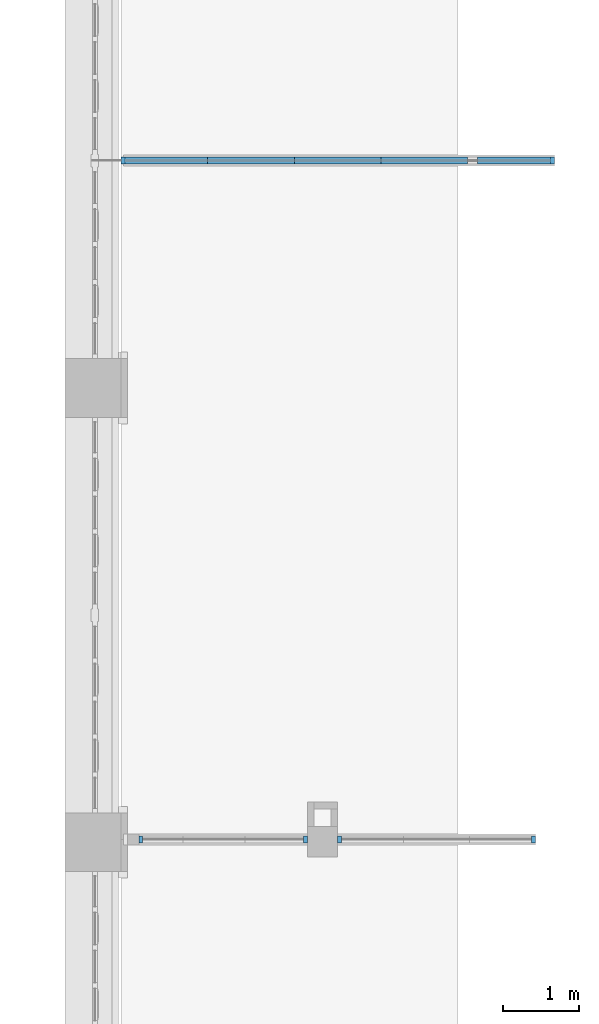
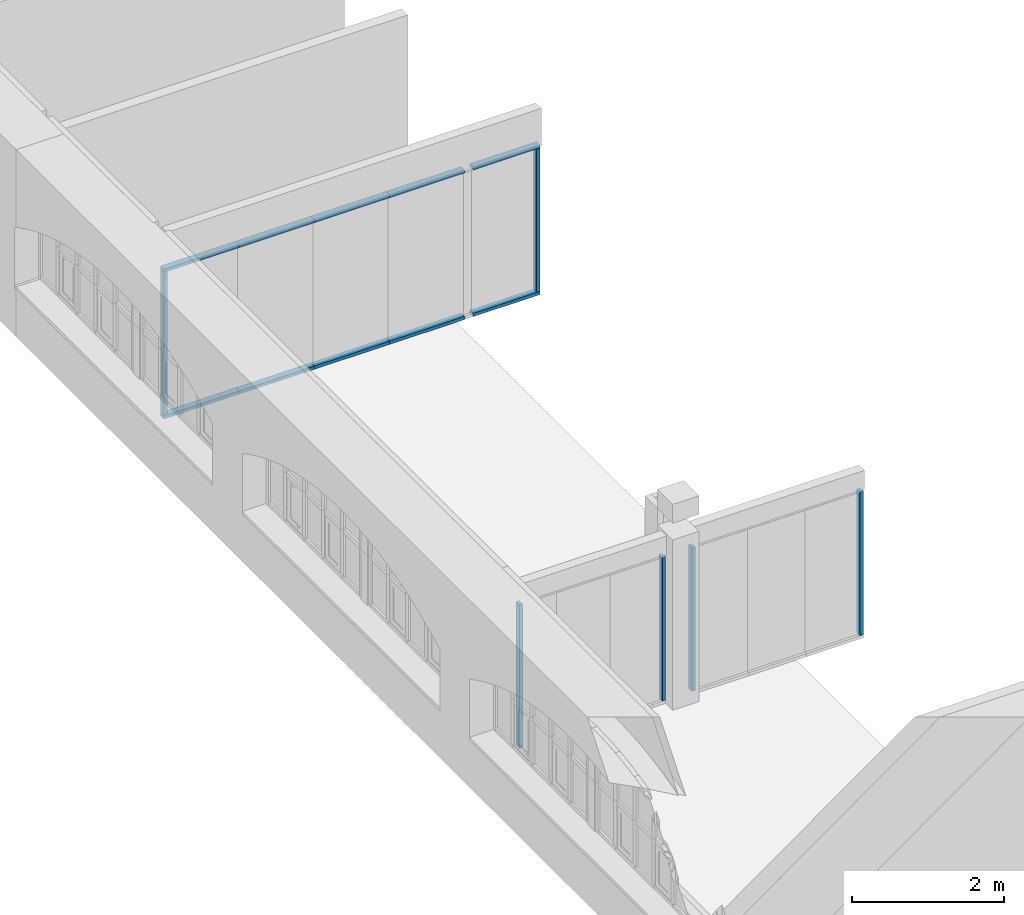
# One storey, part 2 of 32: 16 members, 3 elements without a shape of their own.
"""IFC2X3 building model written with IfcOpenShell, lengths in millimetres."""

from ifc_helpers import new_model, entity, si_unit, converted_unit, derived_unit, direction, frame, frame_2d, origin, origin_2d_with_axis, place, context, subcontext, project, spatial, rectangle, extrude, source, transform, mapped, material, type_object, type_shapes, element, aggregate, save


model = new_model("IFC2X3")

# Units and contexts
model_context = context("Model", 3, precision=0.01, world=origin(), true_north=direction((6.123031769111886e-17, 1.0)))
body_context = subcontext(model_context, "Body", "Model", "MODEL_VIEW")
ifc_project = project(units=[si_unit("LENGTHUNIT", "METRE", prefix="MILLI"), si_unit("AREAUNIT", "SQUARE_METRE"), si_unit("VOLUMEUNIT", "CUBIC_METRE"), converted_unit("PLANEANGLEUNIT", "DEGREE", entity("IfcPlaneAngleMeasure", 0.017453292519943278), si_unit("PLANEANGLEUNIT", "RADIAN"), dimensions=[0, 0, 0, 0, 0, 0, 0]), si_unit("MASSUNIT", "GRAM", prefix="KILO"), derived_unit("MASSDENSITYUNIT", [(si_unit("MASSUNIT", "GRAM", prefix="KILO"), 1), (si_unit("LENGTHUNIT", "METRE"), -3)]), derived_unit("IONCONCENTRATIONUNIT", [(si_unit("MASSUNIT", "GRAM", prefix="KILO"), 1), (si_unit("LENGTHUNIT", "METRE"), -3)]), derived_unit("MOMENTOFINERTIAUNIT", [(si_unit("LENGTHUNIT", "METRE"), 4)]), si_unit("TIMEUNIT", "SECOND"), si_unit("FREQUENCYUNIT", "HERTZ"), si_unit("THERMODYNAMICTEMPERATUREUNIT", "DEGREE_CELSIUS"), derived_unit("THERMALTRANSMITTANCEUNIT", [(si_unit("MASSUNIT", "GRAM", prefix="KILO"), 1), (si_unit("THERMODYNAMICTEMPERATUREUNIT", "KELVIN"), -1), (si_unit("TIMEUNIT", "SECOND"), -3)]), derived_unit("THERMALCONDUCTANCEUNIT", [(si_unit("MASSUNIT", "GRAM", prefix="KILO"), 1), (si_unit("THERMODYNAMICTEMPERATUREUNIT", "KELVIN"), -1), (si_unit("TIMEUNIT", "SECOND"), -3), (si_unit("LENGTHUNIT", "METRE"), 1)]), derived_unit("VOLUMETRICFLOWRATEUNIT", [(si_unit("LENGTHUNIT", "METRE", prefix="DECI"), 3), (si_unit("TIMEUNIT", "SECOND"), -1)]), derived_unit("MASSFLOWRATEUNIT", [(si_unit("MASSUNIT", "GRAM", prefix="KILO"), 1), (si_unit("TIMEUNIT", "SECOND"), -1)]), derived_unit("ROTATIONALFREQUENCYUNIT", [(si_unit("TIMEUNIT", "SECOND"), -1)]), si_unit("ELECTRICCURRENTUNIT", "AMPERE"), si_unit("ELECTRICVOLTAGEUNIT", "VOLT"), si_unit("POWERUNIT", "WATT"), si_unit("FORCEUNIT", "NEWTON", prefix="KILO"), si_unit("ILLUMINANCEUNIT", "LUX"), si_unit("LUMINOUSFLUXUNIT", "LUMEN"), si_unit("LUMINOUSINTENSITYUNIT", "CANDELA"), si_unit("ENERGYUNIT", "JOULE"), derived_unit("USERDEFINED", [(si_unit("MASSUNIT", "GRAM", prefix="KILO"), -1), (si_unit("LENGTHUNIT", "METRE"), -2), (si_unit("TIMEUNIT", "SECOND"), 3), (si_unit("LUMINOUSFLUXUNIT", "LUMEN"), 1)]), derived_unit("USERDEFINED", [(si_unit("MASSUNIT", "GRAM", prefix="KILO"), 1), (si_unit("TIMEUNIT", "SECOND"), -3), (si_unit("LENGTHUNIT", "METRE"), 3), (si_unit("ELECTRICCURRENTUNIT", "AMPERE"), -2)]), derived_unit("SOUNDPOWERUNIT", [(si_unit("MASSUNIT", "GRAM", prefix="KILO"), 1), (si_unit("TIMEUNIT", "SECOND"), -3), (si_unit("LENGTHUNIT", "METRE"), 2)]), derived_unit("SOUNDPRESSUREUNIT", [(si_unit("MASSUNIT", "GRAM", prefix="KILO"), 1), (si_unit("LENGTHUNIT", "METRE"), -1), (si_unit("TIMEUNIT", "SECOND"), -2)]), derived_unit("LINEARVELOCITYUNIT", [(si_unit("LENGTHUNIT", "METRE"), 1), (si_unit("TIMEUNIT", "SECOND"), -1)]), si_unit("PRESSUREUNIT", "PASCAL"), derived_unit("USERDEFINED", [(si_unit("MASSUNIT", "GRAM", prefix="KILO"), 1), (si_unit("LENGTHUNIT", "METRE"), -2), (si_unit("TIMEUNIT", "SECOND"), -2)]), derived_unit("LINEARFORCEUNIT", [(si_unit("MASSUNIT", "GRAM", prefix="KILO"), 1), (si_unit("TIMEUNIT", "SECOND"), -2)]), derived_unit("PLANARFORCEUNIT", [(si_unit("MASSUNIT", "GRAM", prefix="KILO"), 1), (si_unit("LENGTHUNIT", "METRE"), -1), (si_unit("TIMEUNIT", "SECOND"), -2)]), derived_unit("SPECIFICHEATCAPACITYUNIT", [(si_unit("THERMODYNAMICTEMPERATUREUNIT", "KELVIN"), -1), (si_unit("LENGTHUNIT", "METRE"), 2), (si_unit("TIMEUNIT", "SECOND"), -2)]), derived_unit("HEATFLUXDENSITYUNIT", [(si_unit("MASSUNIT", "GRAM", prefix="KILO"), 1), (si_unit("TIMEUNIT", "SECOND"), -3)]), derived_unit("HEATINGVALUEUNIT", [(si_unit("LENGTHUNIT", "METRE"), 2), (si_unit("TIMEUNIT", "SECOND"), -2)]), derived_unit("VAPORPERMEABILITYUNIT", [(si_unit("LENGTHUNIT", "METRE"), -1), (si_unit("TIMEUNIT", "SECOND"), 1)]), derived_unit("DYNAMICVISCOSITYUNIT", [(si_unit("MASSUNIT", "GRAM", prefix="KILO"), 1), (si_unit("TIMEUNIT", "SECOND"), -1), (si_unit("LENGTHUNIT", "METRE"), -1)]), derived_unit("THERMALEXPANSIONCOEFFICIENTUNIT", [(si_unit("THERMODYNAMICTEMPERATUREUNIT", "KELVIN"), -1)]), derived_unit("MODULUSOFELASTICITYUNIT", [(si_unit("MASSUNIT", "GRAM", prefix="KILO"), 1), (si_unit("LENGTHUNIT", "METRE"), -1), (si_unit("TIMEUNIT", "SECOND"), -2)]), derived_unit("ISOTHERMALMOISTURECAPACITYUNIT", [(si_unit("MASSUNIT", "GRAM", prefix="KILO"), -1), (si_unit("LENGTHUNIT", "METRE"), 3)]), derived_unit("MOISTUREDIFFUSIVITYUNIT", [(si_unit("TIMEUNIT", "SECOND"), -1), (si_unit("LENGTHUNIT", "METRE"), 2)]), derived_unit("MASSPERLENGTHUNIT", [(si_unit("MASSUNIT", "GRAM", prefix="KILO"), 1), (si_unit("LENGTHUNIT", "METRE"), -1)]), derived_unit("THERMALRESISTANCEUNIT", [(si_unit("MASSUNIT", "GRAM", prefix="KILO"), -1), (si_unit("TIMEUNIT", "SECOND"), 3), (si_unit("THERMODYNAMICTEMPERATUREUNIT", "KELVIN"), 1)]), derived_unit("ACCELERATIONUNIT", [(si_unit("LENGTHUNIT", "METRE"), 1), (si_unit("TIMEUNIT", "SECOND"), -2)]), derived_unit("ANGULARVELOCITYUNIT", [(si_unit("TIMEUNIT", "SECOND"), -1), (si_unit("PLANEANGLEUNIT", "RADIAN"), 1)]), derived_unit("LINEARSTIFFNESSUNIT", [(si_unit("MASSUNIT", "GRAM", prefix="KILO"), 1), (si_unit("TIMEUNIT", "SECOND"), -2)]), derived_unit("WARPINGCONSTANTUNIT", [(si_unit("LENGTHUNIT", "METRE"), 6)]), derived_unit("LINEARMOMENTUNIT", [(si_unit("MASSUNIT", "GRAM", prefix="KILO"), 1), (si_unit("LENGTHUNIT", "METRE"), 1), (si_unit("TIMEUNIT", "SECOND"), -2)]), derived_unit("TORQUEUNIT", [(si_unit("MASSUNIT", "GRAM", prefix="KILO"), 1), (si_unit("LENGTHUNIT", "METRE"), 2), (si_unit("TIMEUNIT", "SECOND"), -2)])], contexts=[model_context])

# Site, building, storey
site_placement = place(None, origin())
site = spatial("IfcSite", under=ifc_project, at=site_placement, Name="Default", CompositionType="ELEMENT")
building_placement = place(site_placement, origin())
building = spatial("IfcBuilding", under=site, at=building_placement, Name="Eesti Rahvusraamatukogu hoone renoveerimise projekteerimistööd", CompositionType="ELEMENT")
storey_placement = place(building_placement, frame((0.0, 0.0, 4950.000000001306)))
storey = spatial("IfcBuildingStorey", under=building, at=storey_placement, Name="2. korrus", CompositionType="ELEMENT", Elevation=4950.000000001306)

# Curtain wall, member
curtain_wall_type = type_object("IfcCurtainWallType", Name="Curtain Wall:VLS Klaasvahesein profiilita 38db", PredefinedType="NOTDEFINED")
curtain_wall_1_placement = place(storey_placement, frame((0.0, 0.0, -4950.000000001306)))
curtain_wall_1 = element("IfcCurtainWall", 1, at=curtain_wall_1_placement, inside=storey, type_object=curtain_wall_type, Name="Curtain Wall:VLS Klaasvahesein profiilita 38db", ObjectType="Curtain Wall:VLS Klaasvahesein profiilita 38db")
ifc_material = material(Name="Aluminum")
member_type_1 = type_object("IfcMemberType", Name="Rectangular Mullion:50mm x 92mm", PredefinedType="MULLION", material=ifc_material)
shared_shape_1 = source(origin(), body_context, "Body", "SweptSolid", [
    extrude(rectangle(XDim=50.0, YDim=92.0, at=origin_2d_with_axis()), frame((-25.0, 0.0, -2300.0), z_axis=(0.0, 0.0, 1.0), x_axis=(-1.0, 0.0, 0.0)), (0.0, 0.0, 1.0), 2300.0),
])
type_shapes(member_type_1, [shared_shape_1])
member_1_placement = place(curtain_wall_1_placement, frame((-36040.0, 21350.0, 7300.0), z_axis=(0.0, 0.0, 1.0), x_axis=(-1.0, 0.0, 0.0)))
member_1 = element("IfcMember", 2, at=member_1_placement, type_object=member_type_1, material=ifc_material, Name="Rectangular Mullion:50mm x 92mm", ObjectType="Rectangular Mullion:50mm x 92mm", context=body_context, shape_type="MappedRepresentation", body=[
    mapped(shared_shape_1, transform((0.0, 0.0, 0.0), scale=1.0)),
])

curtain_wall_2_placement = place(storey_placement, frame((0.0, 0.0, -4950.000000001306)))
curtain_wall_2 = element("IfcCurtainWall", 3, at=curtain_wall_2_placement, inside=storey, type_object=curtain_wall_type, Name="Curtain Wall:VLS Klaasvahesein profiilita 38db", ObjectType="Curtain Wall:VLS Klaasvahesein profiilita 38db")
member_2_placement = place(curtain_wall_2_placement, frame((-35805.49999999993, 12420.0, 7300.0), z_axis=(0.0, 0.0, 1.0), x_axis=(-1.0, 0.0, 0.0)))
member_2 = element("IfcMember", 4, at=member_2_placement, type_object=member_type_1, material=ifc_material, Name="Rectangular Mullion:50mm x 92mm", ObjectType="Rectangular Mullion:50mm x 92mm", context=body_context, shape_type="MappedRepresentation", body=[
    mapped(shared_shape_1, transform((0.0, 0.0, 0.0), scale=1.0)),
])

curtain_wall_3_placement = place(storey_placement, frame((0.0, 0.0, -4950.000000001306)))
curtain_wall_3 = element("IfcCurtainWall", 5, at=curtain_wall_3_placement, inside=storey, type_object=curtain_wall_type, Name="Curtain Wall:VLS Klaasvahesein profiilita 38db", ObjectType="Curtain Wall:VLS Klaasvahesein profiilita 38db")
member_3_placement = place(curtain_wall_3_placement, frame((-33190.0, 12420.0, 7300.0), z_axis=(0.0, 0.0, 1.0), x_axis=(-1.0, 0.0, 0.0)))
member_3 = element("IfcMember", 6, at=member_3_placement, type_object=member_type_1, material=ifc_material, Name="Rectangular Mullion:50mm x 92mm", ObjectType="Rectangular Mullion:50mm x 92mm", context=body_context, shape_type="MappedRepresentation", body=[
    mapped(shared_shape_1, transform((0.0, 0.0, 0.0), scale=1.0)),
])

# Member
member_type_2 = type_object("IfcMemberType", Name="Rectangular Mullion:50mm x 92mm", PredefinedType="MULLION", material=ifc_material)
shared_shape_2 = source(origin(), body_context, "Body", "SweptSolid", [
    extrude(rectangle(XDim=50.0, YDim=92.0, at=origin_2d_with_axis()), frame((-25.0, 0.0, -2300.0), z_axis=(0.0, 0.0, 1.0), x_axis=(-1.0, 0.0, 0.0)), (0.0, 0.0, 1.0), 2300.0),
])
type_shapes(member_type_2, [shared_shape_2])
member_4_placement = place(curtain_wall_1_placement, frame((-30340.0, 21350.0, 5000.0), z_axis=(0.0, 0.0, -1.0), x_axis=(1.0, 0.0, 0.0)))
member_4 = element("IfcMember", 7, at=member_4_placement, type_object=member_type_2, material=ifc_material, Name="Rectangular Mullion:50mm x 92mm", ObjectType="Rectangular Mullion:50mm x 92mm", context=body_context, shape_type="MappedRepresentation", body=[
    mapped(shared_shape_2, transform((0.0, 0.0, 0.0), scale=1.0)),
])

member_5_placement = place(curtain_wall_2_placement, frame((-33590.0, 12420.0, 5000.0), z_axis=(0.0, 0.0, -1.0), x_axis=(1.0, 0.0, 0.0)))
member_5 = element("IfcMember", 8, at=member_5_placement, type_object=member_type_2, material=ifc_material, Name="Rectangular Mullion:50mm x 92mm", ObjectType="Rectangular Mullion:50mm x 92mm", context=body_context, shape_type="MappedRepresentation", body=[
    mapped(shared_shape_2, transform((0.0, 0.0, 0.0), scale=1.0)),
])

aggregate(curtain_wall_2, [member_5, member_2])

member_6_placement = place(curtain_wall_3_placement, frame((-30590.0, 12420.0, 5000.0), z_axis=(0.0, 0.0, -1.0), x_axis=(1.0, 0.0, 0.0)))
member_6 = element("IfcMember", 9, at=member_6_placement, type_object=member_type_2, material=ifc_material, Name="Rectangular Mullion:50mm x 92mm", ObjectType="Rectangular Mullion:50mm x 92mm", context=body_context, shape_type="MappedRepresentation", body=[
    mapped(shared_shape_2, transform((0.0, 0.0, 0.0), scale=1.0)),
])

aggregate(curtain_wall_3, [member_6, member_3])

member_type_3 = type_object("IfcMemberType", Name="Rectangular Mullion:50mm x 92mm", PredefinedType="MULLION", material=ifc_material)
shared_shape_3 = source(origin(), body_context, "Body", "SweptSolid", [
    extrude(rectangle(XDim=50.0, YDim=92.0, at=frame_2d((0.0, 3.552713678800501e-15), x_axis=(1.0, 0.0))), frame((-25.0, 0.0, -1011.6666668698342), z_axis=(0.0, 0.0, 1.0), x_axis=(-1.0, 0.0, 0.0)), (0.0, 0.0, 1.0), 1011.6666668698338),
])
type_shapes(member_type_3, [shared_shape_3])
member_7_placement = place(curtain_wall_1_placement, frame((-30340.0, 21350.0, 7350.0), z_axis=(1.0, 0.0, 0.0), x_axis=(0.0, 0.0, 1.0)))
member_7 = element("IfcMember", 10, at=member_7_placement, type_object=member_type_3, material=ifc_material, Name="Rectangular Mullion:50mm x 92mm", ObjectType="Rectangular Mullion:50mm x 92mm", context=body_context, shape_type="MappedRepresentation", body=[
    mapped(shared_shape_3, transform((0.0, 0.0, 0.0), scale=1.0)),
])

member_type_4 = type_object("IfcMemberType", Name="Rectangular Mullion:50mm x 92mm", PredefinedType="MULLION", material=ifc_material)
shared_shape_4 = source(origin(), body_context, "Body", "SweptSolid", [
    extrude(rectangle(XDim=50.0, YDim=92.0, at=frame_2d((0.0, 3.552713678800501e-15), x_axis=(1.0, 0.0))), frame((-25.0, 0.0, -1140.0000001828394), z_axis=(0.0, 0.0, 1.0), x_axis=(-1.0, 0.0, 0.0)), (0.0, 0.0, 1.0), 1140.0000001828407),
])
type_shapes(member_type_4, [shared_shape_4])
member_8_placement = place(curtain_wall_1_placement, frame((-34899.99999981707, 21350.0, 7350.0), z_axis=(1.0, 0.0, 0.0), x_axis=(0.0, 0.0, 1.0)))
member_8 = element("IfcMember", 11, at=member_8_placement, type_object=member_type_4, material=ifc_material, Name="Rectangular Mullion:50mm x 92mm", ObjectType="Rectangular Mullion:50mm x 92mm", context=body_context, shape_type="MappedRepresentation", body=[
    mapped(shared_shape_4, transform((0.0, 0.0, 0.0), scale=1.0)),
])

member_type_5 = type_object("IfcMemberType", Name="Rectangular Mullion:50mm x 92mm", PredefinedType="MULLION", material=ifc_material)
shared_shape_5 = source(origin(), body_context, "Body", "SweptSolid", [
    extrude(rectangle(XDim=50.0, YDim=92.0, at=frame_2d((0.0, 3.552713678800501e-15), x_axis=(1.0, 0.0))), frame((-25.0, 0.0, -1139.999999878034), z_axis=(0.0, 0.0, 1.0), x_axis=(-1.0, 0.0, 0.0)), (0.0, 0.0, 1.0), 1139.9999998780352),
])
type_shapes(member_type_5, [shared_shape_5])
member_9_placement = place(curtain_wall_1_placement, frame((-33759.99999993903, 21350.0, 7350.0), z_axis=(1.0, 0.0, 0.0), x_axis=(0.0, 0.0, 1.0)))
member_9 = element("IfcMember", 12, at=member_9_placement, type_object=member_type_5, material=ifc_material, Name="Rectangular Mullion:50mm x 92mm", ObjectType="Rectangular Mullion:50mm x 92mm", context=body_context, shape_type="MappedRepresentation", body=[
    mapped(shared_shape_5, transform((0.0, 0.0, 0.0), scale=1.0)),
])

member_10_placement = place(curtain_wall_1_placement, frame((-32620.000000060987, 21350.0, 7350.0), z_axis=(1.0, 0.0, 0.0), x_axis=(0.0, 0.0, 1.0)))
member_10 = element("IfcMember", 13, at=member_10_placement, type_object=member_type_5, material=ifc_material, Name="Rectangular Mullion:50mm x 92mm", ObjectType="Rectangular Mullion:50mm x 92mm", context=body_context, shape_type="MappedRepresentation", body=[
    mapped(shared_shape_5, transform((0.0, 0.0, 0.0), scale=1.0)),
])

member_11_placement = place(curtain_wall_1_placement, frame((-31480.000000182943, 21350.0, 7350.0), z_axis=(1.0, 0.0, 0.0), x_axis=(0.0, 0.0, 1.0)))
member_11 = element("IfcMember", 14, at=member_11_placement, type_object=member_type_5, material=ifc_material, Name="Rectangular Mullion:50mm x 92mm", ObjectType="Rectangular Mullion:50mm x 92mm", context=body_context, shape_type="MappedRepresentation", body=[
    mapped(shared_shape_5, transform((0.0, 0.0, 0.0), scale=1.0)),
])

member_type_6 = type_object("IfcMemberType", Name="Rectangular Mullion:50mm x 92mm", PredefinedType="MULLION", material=ifc_material)
shared_shape_6 = source(origin(), body_context, "Body", "SweptSolid", [
    extrude(rectangle(XDim=50.0, YDim=92.0, at=frame_2d((0.0, 3.552713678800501e-15), x_axis=(1.0, 0.0))), frame((-25.0, 0.0, -1140.0000001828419), z_axis=(0.0, 0.0, 1.0), x_axis=(-1.0, 0.0, 0.0)), (0.0, 0.0, 1.0), 1140.0000001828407),
])
type_shapes(member_type_6, [shared_shape_6])
member_12_placement = place(curtain_wall_1_placement, frame((-36040.0, 21350.0, 4950.0), z_axis=(-1.0, 0.0, 0.0), x_axis=(0.0, 0.0, -1.0)))
member_12 = element("IfcMember", 15, at=member_12_placement, type_object=member_type_6, material=ifc_material, Name="Rectangular Mullion:50mm x 92mm", ObjectType="Rectangular Mullion:50mm x 92mm", context=body_context, shape_type="MappedRepresentation", body=[
    mapped(shared_shape_6, transform((0.0, 0.0, 0.0), scale=1.0)),
])

member_type_7 = type_object("IfcMemberType", Name="Rectangular Mullion:50mm x 92mm", PredefinedType="MULLION", material=ifc_material)
shared_shape_7 = source(origin(), body_context, "Body", "SweptSolid", [
    extrude(rectangle(XDim=50.0, YDim=92.0, at=frame_2d((0.0, 3.552713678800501e-15), x_axis=(1.0, 0.0))), frame((-25.0, 0.0, -1139.9999998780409), z_axis=(0.0, 0.0, 1.0), x_axis=(-1.0, 0.0, 0.0)), (0.0, 0.0, 1.0), 1139.9999998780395),
])
type_shapes(member_type_7, [shared_shape_7])
member_13_placement = place(curtain_wall_1_placement, frame((-34899.99999981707, 21350.0, 4950.0), z_axis=(-1.0, 0.0, 0.0), x_axis=(0.0, 0.0, -1.0)))
member_13 = element("IfcMember", 16, at=member_13_placement, type_object=member_type_7, material=ifc_material, Name="Rectangular Mullion:50mm x 92mm", ObjectType="Rectangular Mullion:50mm x 92mm", context=body_context, shape_type="MappedRepresentation", body=[
    mapped(shared_shape_7, transform((0.0, 0.0, 0.0), scale=1.0)),
])

member_14_placement = place(curtain_wall_1_placement, frame((-33759.99999993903, 21350.0, 4950.0), z_axis=(-1.0, 0.0, 0.0), x_axis=(0.0, 0.0, -1.0)))
member_14 = element("IfcMember", 17, at=member_14_placement, type_object=member_type_7, material=ifc_material, Name="Rectangular Mullion:50mm x 92mm", ObjectType="Rectangular Mullion:50mm x 92mm", context=body_context, shape_type="MappedRepresentation", body=[
    mapped(shared_shape_7, transform((0.0, 0.0, 0.0), scale=1.0)),
])

member_15_placement = place(curtain_wall_1_placement, frame((-32620.000000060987, 21350.0, 4950.0), z_axis=(-1.0, 0.0, 0.0), x_axis=(0.0, 0.0, -1.0)))
member_15 = element("IfcMember", 18, at=member_15_placement, type_object=member_type_7, material=ifc_material, Name="Rectangular Mullion:50mm x 92mm", ObjectType="Rectangular Mullion:50mm x 92mm", context=body_context, shape_type="MappedRepresentation", body=[
    mapped(shared_shape_7, transform((0.0, 0.0, 0.0), scale=1.0)),
])

member_type_8 = type_object("IfcMemberType", Name="Rectangular Mullion:50mm x 92mm", PredefinedType="MULLION", material=ifc_material)
shared_shape_8 = source(origin(), body_context, "Body", "SweptSolid", [
    extrude(rectangle(XDim=50.0, YDim=92.0, at=frame_2d((0.0, 3.552713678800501e-15), x_axis=(1.0, 0.0))), frame((-25.0, 0.0, -1011.6666668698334), z_axis=(0.0, 0.0, 1.0), x_axis=(-1.0, 0.0, 0.0)), (0.0, 0.0, 1.0), 1011.6666668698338),
])
type_shapes(member_type_8, [shared_shape_8])
member_16_placement = place(curtain_wall_1_placement, frame((-31351.666666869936, 21350.0, 4950.0), z_axis=(-1.0, 0.0, 0.0), x_axis=(0.0, 0.0, -1.0)))
member_16 = element("IfcMember", 19, at=member_16_placement, type_object=member_type_8, material=ifc_material, Name="Rectangular Mullion:50mm x 92mm", ObjectType="Rectangular Mullion:50mm x 92mm", context=body_context, shape_type="MappedRepresentation", body=[
    mapped(shared_shape_8, transform((0.0, 0.0, 0.0), scale=1.0)),
])

aggregate(curtain_wall_1, [member_7, member_8, member_9, member_12, member_13, member_14, member_4, member_1, member_10, member_11, member_15, member_16])

save(model, "model.ifc")
